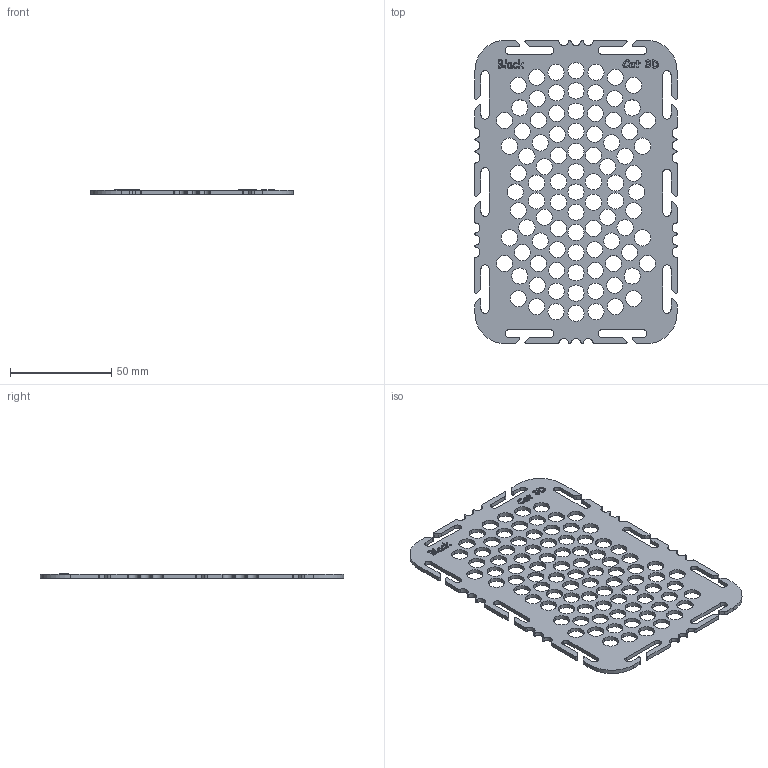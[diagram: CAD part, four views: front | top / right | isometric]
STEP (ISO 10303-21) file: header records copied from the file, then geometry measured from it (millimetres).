
FILE_DESCRIPTION (( 'STEP AP214' ), '1' );
FILE_NAME ('Rigid MOLLE Panel for custom organization_V2.1.STEP', '2024-06-14T12:55:52', ( '' ), ( '' ), 'SwSTEP 2.0', 'SolidWorks 2023', '' );
FILE_SCHEMA (( 'AUTOMOTIVE_DESIGN' ));
Length unit declared in the file: millimetre
Products named in the file (1): Rigid MOLLE Panel for custom organization_V2.1
Bounding box: 100 x 150 x 2.2 mm (x, y, z)
Volume: 18015.7 mm3; surface area: 24655.7 mm2
Topology: 1 solids, 1 shells, 620 faces, 1809 edges, 1206 vertices
Faces by surface type: cylinder 315, bspline 186, plane 119
Entity records: 27086 total; most frequent: CARTESIAN_POINT 10934, ORIENTED_EDGE 3618, DIRECTION 2937, EDGE_CURVE 1809, VERTEX_POINT 1206, AXIS2_PLACEMENT_3D 1065, EDGE_LOOP 817, LINE 807
